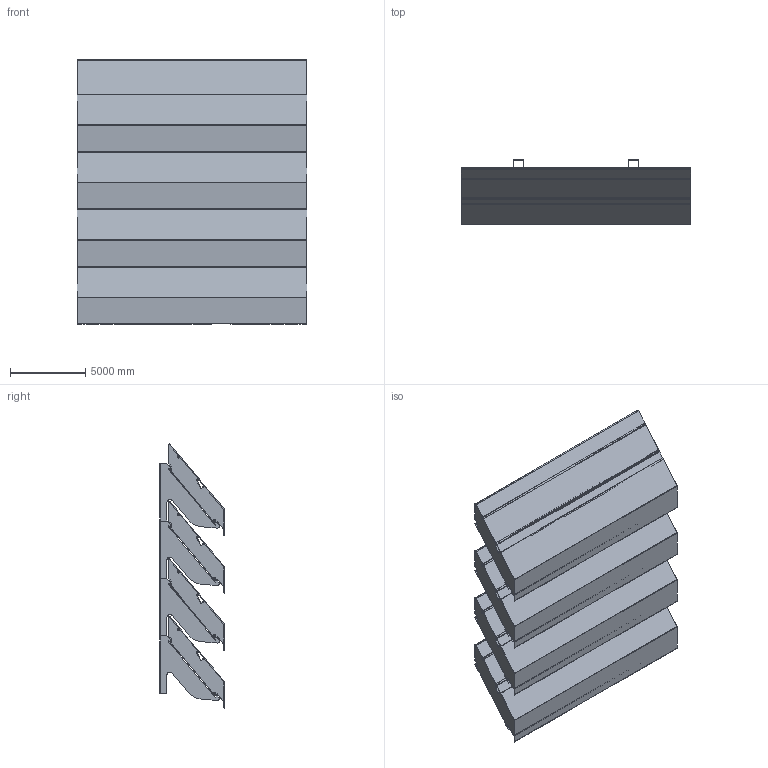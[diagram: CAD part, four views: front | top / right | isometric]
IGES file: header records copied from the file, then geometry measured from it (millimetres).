
Global section: file name: 3D_L_150ACS; native system: AutoCAD 2023 - English; preprocessor: Autodesk Translation Framework DWG producer (atf_dwg_producer); organization: unknown; date: 20260202.111802; units: inch
Bounding box: 15240 x 4299.92 x 17502.61 mm (x, y, z)
Volume: 377598749276.7 mm3; surface area: 3322190448.6 mm2
Topology: 24 solids, 24 shells, 1276 faces, 3684 edges, 2460 vertices
Faces by surface type: bspline 1276
